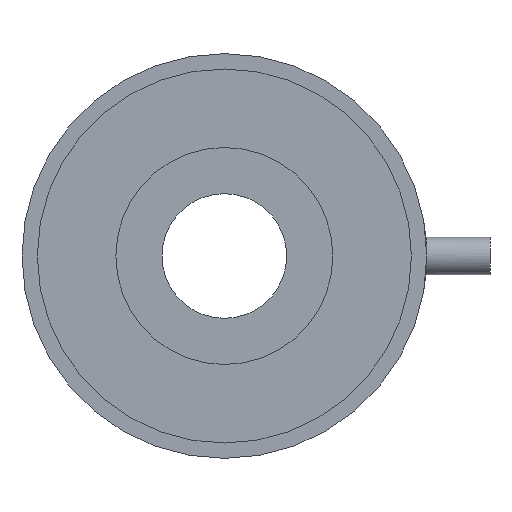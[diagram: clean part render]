
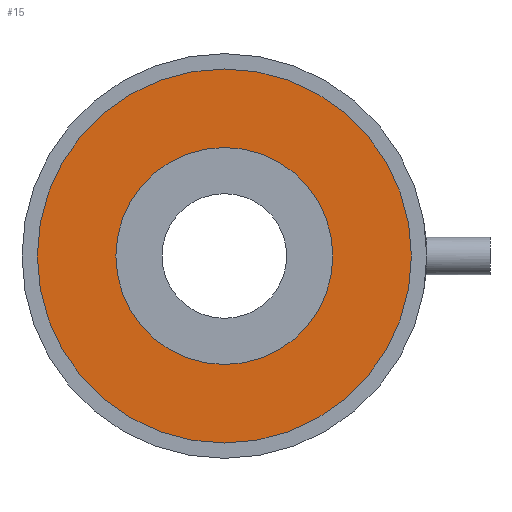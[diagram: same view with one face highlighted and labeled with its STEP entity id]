
A CAD part, front view. The second image highlights one B-rep face of the part: STEP entity #15.
In plain terms, the highlighted planar face has unit normal (0, -1, 0).
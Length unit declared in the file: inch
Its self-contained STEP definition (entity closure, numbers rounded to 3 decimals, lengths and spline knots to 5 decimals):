
#15 = ADVANCED_FACE ( 'NONE', ( #485, #460 ), #123, .T. ) ;
#26 = VERTEX_POINT ( 'NONE', #115 ) ;
#30 = VERTEX_POINT ( 'NONE', #117 ) ;
#37 = VERTEX_POINT ( 'NONE', #131 ) ;
#75 = VERTEX_POINT ( 'NONE', #138 ) ;
#106 = CARTESIAN_POINT ( 'NONE',  ( 0., 0.0231, 0. ) ) ;
#112 = DIRECTION ( 'NONE',  ( 0., 0., -1. ) ) ;
#115 = CARTESIAN_POINT ( 'NONE',  ( 0., 0.0231, 0.435 ) ) ;
#117 = CARTESIAN_POINT ( 'NONE',  ( 0., 0.0231, -0.435 ) ) ;
#123 = PLANE ( 'NONE',  #590 ) ;
#127 = DIRECTION ( 'NONE',  ( 0., -1., 0. ) ) ;
#131 = CARTESIAN_POINT ( 'NONE',  ( 0., 0.0231, -0.75 ) ) ;
#138 = CARTESIAN_POINT ( 'NONE',  ( 0., 0.0231, 0.75 ) ) ;
#145 = DIRECTION ( 'NONE',  ( 0., 0., -1. ) ) ;
#151 = DIRECTION ( 'NONE',  ( 0., 0., -1. ) ) ;
#168 = CARTESIAN_POINT ( 'NONE',  ( 0., 0.0231, 0. ) ) ;
#173 = CARTESIAN_POINT ( 'NONE',  ( 0., 0.0231, 0. ) ) ;
#178 = DIRECTION ( 'NONE',  ( 0., -1., 0. ) ) ;
#182 = DIRECTION ( 'NONE',  ( 0., -1., 0. ) ) ;
#184 = DIRECTION ( 'NONE',  ( 0., -1., 0. ) ) ;
#212 = CARTESIAN_POINT ( 'NONE',  ( 0., 0.0231, 0. ) ) ;
#216 = DIRECTION ( 'NONE',  ( 0., 0., -1. ) ) ;
#238 = DIRECTION ( 'NONE',  ( 0., -1., 0. ) ) ;
#240 = DIRECTION ( 'NONE',  ( 0., 0., -1. ) ) ;
#265 = CARTESIAN_POINT ( 'NONE',  ( 0., 0.0231, 0. ) ) ;
#330 = ORIENTED_EDGE ( 'NONE', *, *, #563, .F. ) ;
#331 = ORIENTED_EDGE ( 'NONE', *, *, #551, .T. ) ;
#356 = ORIENTED_EDGE ( 'NONE', *, *, #540, .T. ) ;
#358 = EDGE_LOOP ( 'NONE', ( #356, #331 ) ) ;
#363 = EDGE_LOOP ( 'NONE', ( #395, #330 ) ) ;
#395 = ORIENTED_EDGE ( 'NONE', *, *, #544, .F. ) ;
#460 = FACE_OUTER_BOUND ( 'NONE', #358, .T. ) ;
#465 = CIRCLE ( 'NONE', #579, 0.435 ) ;
#485 = FACE_BOUND ( 'NONE', #363, .T. ) ;
#495 = CIRCLE ( 'NONE', #618, 0.75 ) ;
#501 = CIRCLE ( 'NONE', #609, 0.75 ) ;
#527 = CIRCLE ( 'NONE', #615, 0.435 ) ;
#540 = EDGE_CURVE ( 'NONE', #37, #75, #495, .T. ) ;
#544 = EDGE_CURVE ( 'NONE', #30, #26, #465, .T. ) ;
#551 = EDGE_CURVE ( 'NONE', #75, #37, #501, .T. ) ;
#563 = EDGE_CURVE ( 'NONE', #26, #30, #527, .T. ) ;
#579 = AXIS2_PLACEMENT_3D ( 'NONE', #173, #182, #145 ) ;
#590 = AXIS2_PLACEMENT_3D ( 'NONE', #106, #127, #112 ) ;
#609 = AXIS2_PLACEMENT_3D ( 'NONE', #212, #184, #216 ) ;
#615 = AXIS2_PLACEMENT_3D ( 'NONE', #265, #238, #240 ) ;
#618 = AXIS2_PLACEMENT_3D ( 'NONE', #168, #178, #151 ) ;
